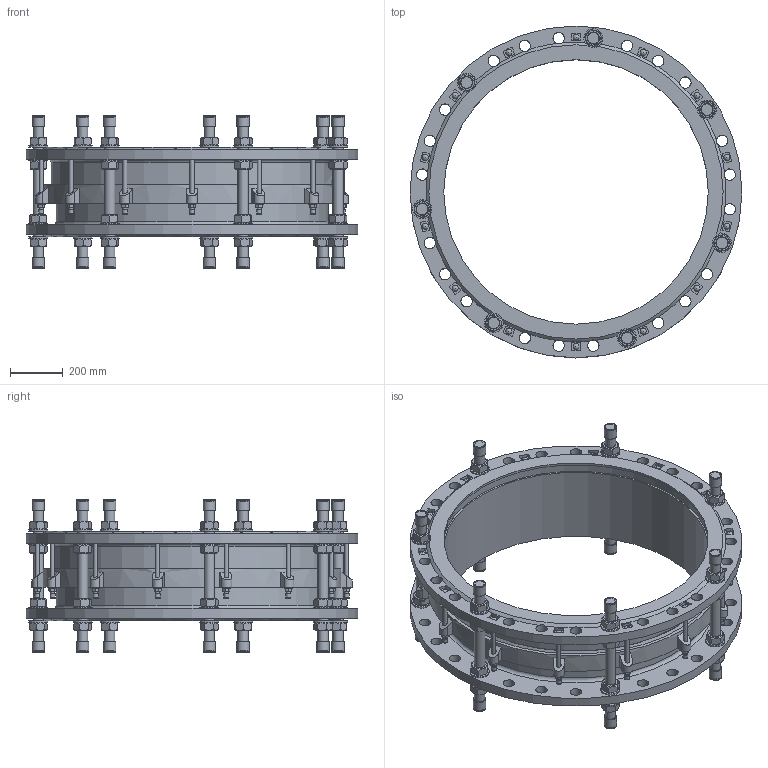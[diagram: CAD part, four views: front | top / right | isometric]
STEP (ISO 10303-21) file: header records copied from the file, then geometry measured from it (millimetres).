
FILE_DESCRIPTION(('STEP AP242'), '1');
FILE_NAME('Ìîíòàæíàÿ âñòàâêà', '', ('UNSPECIFIED'), ('UNSPECIFIED'), 'C3D Converter', 'C3D Toolkit', '');
FILE_SCHEMA(('AP242_MANAGED_MODEL_BASED_3D_ENGINEERING_MIM_LF { 1 0 10303 442 1 1 4 }'));
Length unit declared in the file: millimetre
Products named in the file (13): ШМ.М16.310
Assembly tree (137 placements, depth 2):
  (unnamed)
    (unnamed)
    (unnamed)
    (unnamed)
    (unnamed)  x28
    (unnamed)  x28
    ШМ.М16.310  x7
    (unnamed)  x14
    (unnamed)
    (unnamed)  x14
    (unnamed)  x14
    (unnamed)  x14
    (unnamed)  x14
Bounding box: 1255 x 1255 x 577.8 mm (x, y, z)
Volume: 65775118.5 mm3; surface area: 7825727.9 mm2
Topology: 137 solids, 137 shells, 1522 faces, 3454 edges, 2193 vertices
Faces by surface type: plane 900, cylinder 365, cone 202, torus 30, sphere 14, extrusion 11
Full cylindrical faces by diameter (mm): 16 x42, 17 x14, 18 x14, 19.2 x14, 30 x14, 33.221 x1, 39 x49, 40 x28, 43 x56, 46.8 x14, 72 x28, 1000 x2, 1026 x2, 1039 x2, 1065 x1, 1091 x1, 1101 x1, 1127 x1, 1255 x2
Entity records: 31261 total; most frequent: CARTESIAN_POINT 14900, DIRECTION 2734, ORIENTED_EDGE 2486, EDGE_CURVE 1243, AXIS2_PLACEMENT_3D 1084, VERTEX_POINT 896, EDGE_LOOP 735, FACE_BOUND 569
